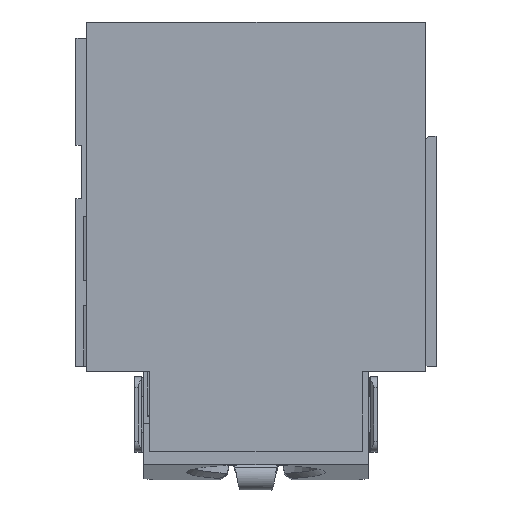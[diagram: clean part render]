
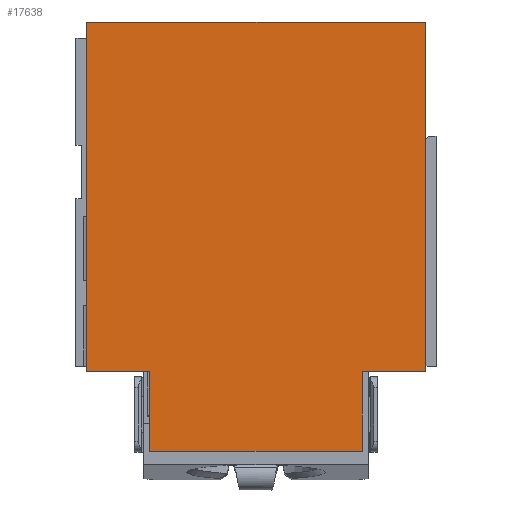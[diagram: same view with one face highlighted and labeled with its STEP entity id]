
A CAD part, top view. The second image highlights one B-rep face of the part: STEP entity #17638.
In plain terms, the highlighted planar face has unit normal (0, 0, 1) as drawn and (0, 1, 0) by its records, which use the part's own axes.
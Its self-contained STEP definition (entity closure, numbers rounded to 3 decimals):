
#166 = VECTOR ( 'NONE', #23362, 1000. ) ;
#209 = EDGE_CURVE ( 'NONE', #30837, #25002, #30382, .T. ) ;
#371 = CARTESIAN_POINT ( 'NONE',  ( 2.98, 0.04, 4.9 ) ) ;
#662 = VECTOR ( 'NONE', #6448, 1000. ) ;
#1099 = LINE ( 'NONE', #29782, #662 ) ;
#1222 = ORIENTED_EDGE ( 'NONE', *, *, #6617, .T. ) ;
#1377 = CARTESIAN_POINT ( 'NONE',  ( -4.75, 0.04, -4.9 ) ) ;
#2587 = ORIENTED_EDGE ( 'NONE', *, *, #7318, .T. ) ;
#3610 = ORIENTED_EDGE ( 'NONE', *, *, #5467, .T. ) ;
#3644 = CARTESIAN_POINT ( 'NONE',  ( -4.75, 0.04, 4.9 ) ) ;
#3680 = ORIENTED_EDGE ( 'NONE', *, *, #20194, .T. ) ;
#5210 = LINE ( 'NONE', #8897, #14092 ) ;
#5433 = FACE_OUTER_BOUND ( 'NONE', #19615, .T. ) ;
#5467 = EDGE_CURVE ( 'NONE', #11331, #18565, #5210, .T. ) ;
#5819 = DIRECTION ( 'NONE',  ( 0., 1., 0. ) ) ;
#6448 = DIRECTION ( 'NONE',  ( 0., 0., -1. ) ) ;
#6617 = EDGE_CURVE ( 'NONE', #18565, #28267, #1099, .T. ) ;
#7318 = EDGE_CURVE ( 'NONE', #28267, #9088, #33340, .T. ) ;
#7444 = VECTOR ( 'NONE', #15769, 1000. ) ;
#7525 = LINE ( 'NONE', #15563, #22849 ) ;
#7768 = DIRECTION ( 'NONE',  ( 0., 0., 1. ) ) ;
#8897 = CARTESIAN_POINT ( 'NONE',  ( -2.98, 0.04, 7.14 ) ) ;
#9088 = VERTEX_POINT ( 'NONE', #28195 ) ;
#10114 = CARTESIAN_POINT ( 'NONE',  ( -4.75, 0.04, -4.9 ) ) ;
#11331 = VERTEX_POINT ( 'NONE', #12321 ) ;
#12248 = EDGE_CURVE ( 'NONE', #31338, #23171, #29032, .T. ) ;
#12321 = CARTESIAN_POINT ( 'NONE',  ( -2.98, 0.04, 7.14 ) ) ;
#13504 = LINE ( 'NONE', #16089, #7444 ) ;
#14092 = VECTOR ( 'NONE', #29527, 1000. ) ;
#14917 = CARTESIAN_POINT ( 'NONE',  ( 2.98, 0.04, 7.14 ) ) ;
#15563 = CARTESIAN_POINT ( 'NONE',  ( -2.98, 0.04, 4.9 ) ) ;
#15769 = DIRECTION ( 'NONE',  ( 0., 0., 1. ) ) ;
#15878 = PLANE ( 'NONE',  #18536 ) ;
#16035 = CARTESIAN_POINT ( 'NONE',  ( 4.75, 0.04, -4.9 ) ) ;
#16089 = CARTESIAN_POINT ( 'NONE',  ( -4.75, 0.04, -4.9 ) ) ;
#17638 = ADVANCED_FACE ( 'NONE', ( #5433 ), #15878, .T. ) ;
#17645 = EDGE_CURVE ( 'NONE', #25002, #31338, #13504, .T. ) ;
#18191 = ORIENTED_EDGE ( 'NONE', *, *, #12248, .T. ) ;
#18536 = AXIS2_PLACEMENT_3D ( 'NONE', #21040, #5819, #28839 ) ;
#18565 = VERTEX_POINT ( 'NONE', #14917 ) ;
#19378 = VECTOR ( 'NONE', #24416, 1000. ) ;
#19615 = EDGE_LOOP ( 'NONE', ( #28740, #18191, #31443, #3610, #1222, #2587, #3680, #32884 ) ) ;
#20025 = VECTOR ( 'NONE', #20715, 1000. ) ;
#20194 = EDGE_CURVE ( 'NONE', #9088, #30837, #28032, .T. ) ;
#20538 = CARTESIAN_POINT ( 'NONE',  ( 4.75, 0.04, -4.9 ) ) ;
#20715 = DIRECTION ( 'NONE',  ( 1., 0., 0. ) ) ;
#21040 = CARTESIAN_POINT ( 'NONE',  ( 0., 0.04, 0. ) ) ;
#22849 = VECTOR ( 'NONE', #7768, 1000. ) ;
#23171 = VERTEX_POINT ( 'NONE', #28242 ) ;
#23362 = DIRECTION ( 'NONE',  ( 0., 0., -1. ) ) ;
#24416 = DIRECTION ( 'NONE',  ( 1., 0., 0. ) ) ;
#25002 = VERTEX_POINT ( 'NONE', #10114 ) ;
#25023 = EDGE_CURVE ( 'NONE', #23171, #11331, #7525, .T. ) ;
#25984 = CARTESIAN_POINT ( 'NONE',  ( 2.98, 0.04, 4.9 ) ) ;
#28032 = LINE ( 'NONE', #20538, #166 ) ;
#28195 = CARTESIAN_POINT ( 'NONE',  ( 4.75, 0.04, 4.9 ) ) ;
#28242 = CARTESIAN_POINT ( 'NONE',  ( -2.98, 0.04, 4.9 ) ) ;
#28267 = VERTEX_POINT ( 'NONE', #371 ) ;
#28740 = ORIENTED_EDGE ( 'NONE', *, *, #17645, .T. ) ;
#28839 = DIRECTION ( 'NONE',  ( 0., 0., 1. ) ) ;
#29032 = LINE ( 'NONE', #3644, #19378 ) ;
#29527 = DIRECTION ( 'NONE',  ( 1., 0., 0. ) ) ;
#29782 = CARTESIAN_POINT ( 'NONE',  ( 2.98, 0.04, 7.14 ) ) ;
#29914 = DIRECTION ( 'NONE',  ( -1., 0., 0. ) ) ;
#30382 = LINE ( 'NONE', #1377, #31571 ) ;
#30837 = VERTEX_POINT ( 'NONE', #16035 ) ;
#31248 = CARTESIAN_POINT ( 'NONE',  ( -4.75, 0.04, 4.9 ) ) ;
#31338 = VERTEX_POINT ( 'NONE', #31248 ) ;
#31443 = ORIENTED_EDGE ( 'NONE', *, *, #25023, .T. ) ;
#31571 = VECTOR ( 'NONE', #29914, 1000. ) ;
#32884 = ORIENTED_EDGE ( 'NONE', *, *, #209, .T. ) ;
#33340 = LINE ( 'NONE', #25984, #20025 ) ;
